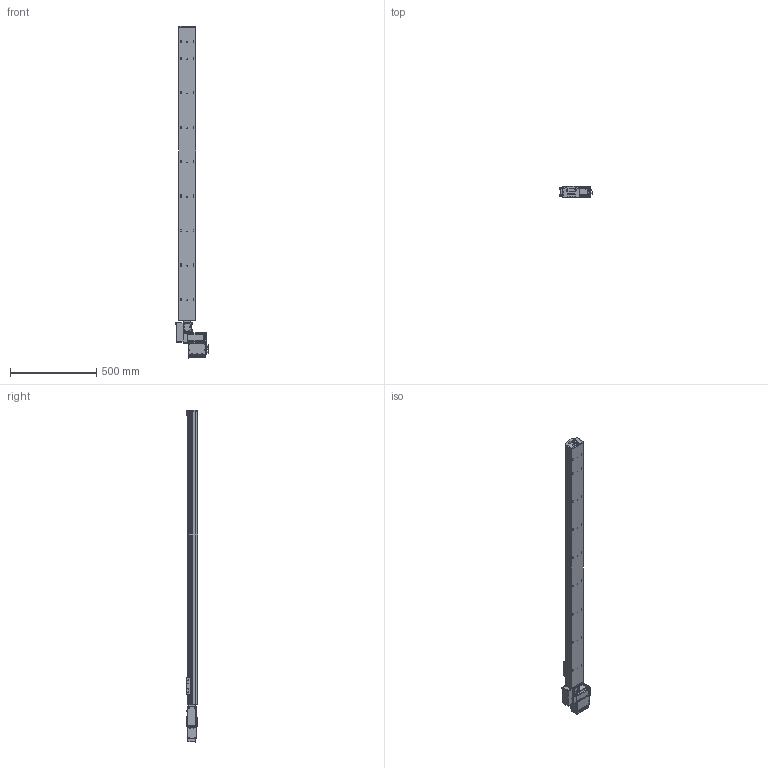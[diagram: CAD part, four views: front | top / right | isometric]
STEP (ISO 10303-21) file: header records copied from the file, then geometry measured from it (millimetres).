
FILE_DESCRIPTION (( 'STEP AP203' ), '1' );
FILE_NAME ('S10 TBN RH S1700.STEP', '2012-06-18T10:29:19', ( 'Conseil Régional Haute-Normandie' ), ( 'Conseil Régional Haute-Normandie' ), 'SwSTEP 2.0', 'SolidWorks 2010', '' );
FILE_SCHEMA (( 'CONFIG_CONTROL_DESIGN' ));
Products named in the file (30): S10 TBN RH S1700; palette tbn; cache t皻e_Default; plaque de bout s10_Default; Vis M5 L16-2_Default_1; vis M5 L5_Default; Moteur 60BLDC90A_3; BU45 Carte d''axe A11_5; Couvercle_3; Colonnette ronde_3; Radiateur profil_X2_00E9_X0_ 100x25_3; axe 1700; embout; cache t皻e axe_Default; Plaque racord_Default; renvoi LH_Default; Cvis M5 L30_Default; vis M5 L12_Default; Assem1_7; T_X2_00F4_X0_le contre le moteur_5; BU41 Carte Alimentation P05_3; Colonnette_3; T_X2_00F4_X0_le fond_3; Connecteur rond D10 3cts_5; Connecteur rond D12 4cts_5; Sub D 9cts 90_X2_00B_X0__3; T_X2_00F4_X0_le Arri_X2_00E8_X0_re_5; T_X2_00F4_X0_le lat_X2_00E9_X0_rale_5; Vis TF 3 torkx_1_1; Vis TF 3 torkx
Assembly tree (69 placements, depth 3):
  S10 TBN RH S1700
    vis M5 L5_Default  x4
    vis M5 L12_Default  x4
    Assem1_7
      T_X2_00F4_X0_le fond_3
      Colonnette ronde_3
      Vis TF 3 torkx_1_1  x21
      Connecteur rond D10 3cts_5  x2
      Connecteur rond D12 4cts_5
      BU41 Carte Alimentation P05_3
      Couvercle_3
      T_X2_00F4_X0_le contre le moteur_5
      Radiateur profil_X2_00E9_X0_ 100x25_3
      Sub D 9cts 90_X2_00B_X0__3
      Moteur 60BLDC90A_3
      T_X2_00F4_X0_le Arri_X2_00E8_X0_re_5
      T_X2_00F4_X0_le lat_X2_00E9_X0_rale_5  x2
      Colonnette_3  x2
      BU45 Carte d''axe A11_5
    Vis TF 3 torkx  x7
    axe 1700
    embout
    palette tbn
    cache t皻e_Default  x2
    Plaque racord_Default
    Cvis M5 L30_Default  x2
    Vis M5 L16-2_Default_1  x4
    cache t皻e axe_Default
    plaque de bout s10_Default
    renvoi LH_Default
Bounding box: 189.8 x 66.75 x 1928.5 mm (x, y, z)
Volume: 9677751.5 mm3; surface area: 1125987 mm2
Topology: 68 solids, 68 shells, 2543 faces, 6307 edges, 4071 vertices
Faces by surface type: plane 1219, cylinder 1085, cone 196, bspline 40, torus 3
Entity records: 50027 total; most frequent: CARTESIAN_POINT 8958, DIRECTION 8082, ORIENTED_EDGE 7318, EDGE_CURVE 3659, AXIS2_PLACEMENT_3D 3006, VERTEX_POINT 2387, VECTOR 2070, LINE 2070
